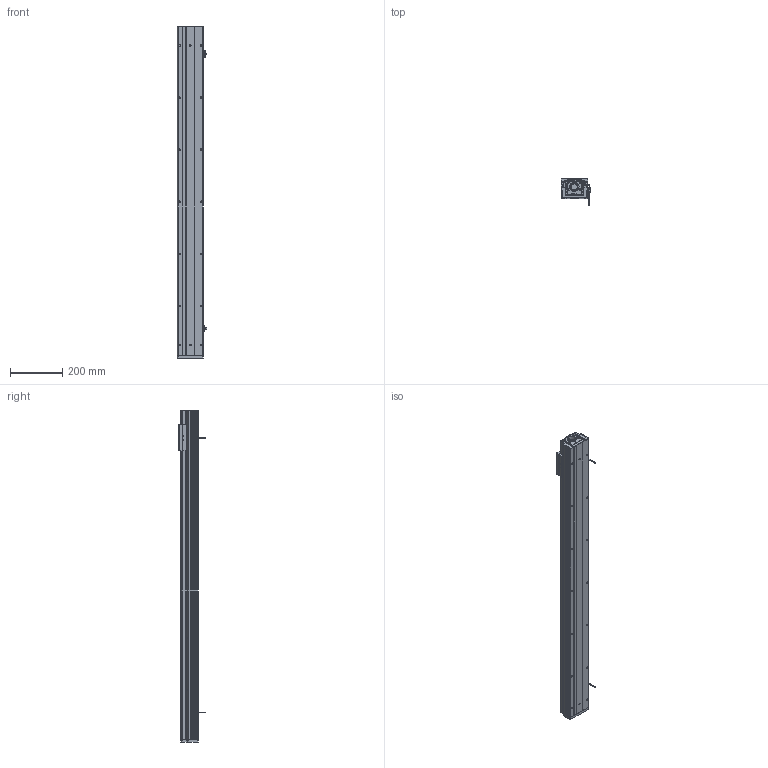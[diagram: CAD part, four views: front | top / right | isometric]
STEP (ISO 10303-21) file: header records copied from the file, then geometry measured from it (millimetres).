
FILE_DESCRIPTION (( 'STEP AP203' ), '1' );
FILE_NAME ('CTHM10-S1050-O-BC.STEP', '2019-12-18T01:09:55', ( '微软用户' ), ( '微软中国' ), 'SwSTEP 2.0', 'SolidWorks 2017', '' );
FILE_SCHEMA (( 'CONFIG_CONTROL_DESIGN' ));
Length unit declared in the file: millimetre
Products named in the file (11): 遣喳蝶15x12x8; CTHM10菁釱(200); EE-SX672-BR; CTHM10痄雄釱(党蜊); CTHM10-S1050-O-BC; CTHM10盓傅耜; CTHM10固定侧自制轴承座; CTHM10裔啣(100); CTHM10傷裔(祥結裔啣); CTHM10綴傷裔; 覜茼え
Assembly tree (14 placements, depth 2):
  CTHM10-S1050-O-BC
    CTHM10菁釱(200)
    CTHM10痄雄釱(党蜊)
    CTHM10盓傅耜
    CTHM10固定侧自制轴承座
    CTHM10裔啣(100)
    CTHM10傷裔(祥結裔啣)
    CTHM10綴傷裔
    覜茼え
    遣喳蝶15x12x8  x4
    EE-SX672-BR  x2
Bounding box: 114.7 x 100.2 x 1275 mm (x, y, z)
Volume: 3163983.3 mm3; surface area: 1055577.1 mm2
Topology: 14 solids, 14 shells, 970 faces, 2752 edges, 1796 vertices
Faces by surface type: cylinder 525, plane 401, cone 44
Entity records: 32951 total; most frequent: CARTESIAN_POINT 7951, DIRECTION 5030, ORIENTED_EDGE 4976, EDGE_CURVE 2488, AXIS2_PLACEMENT_3D 1849, VERTEX_POINT 1644, LINE 1332, VECTOR 1332
